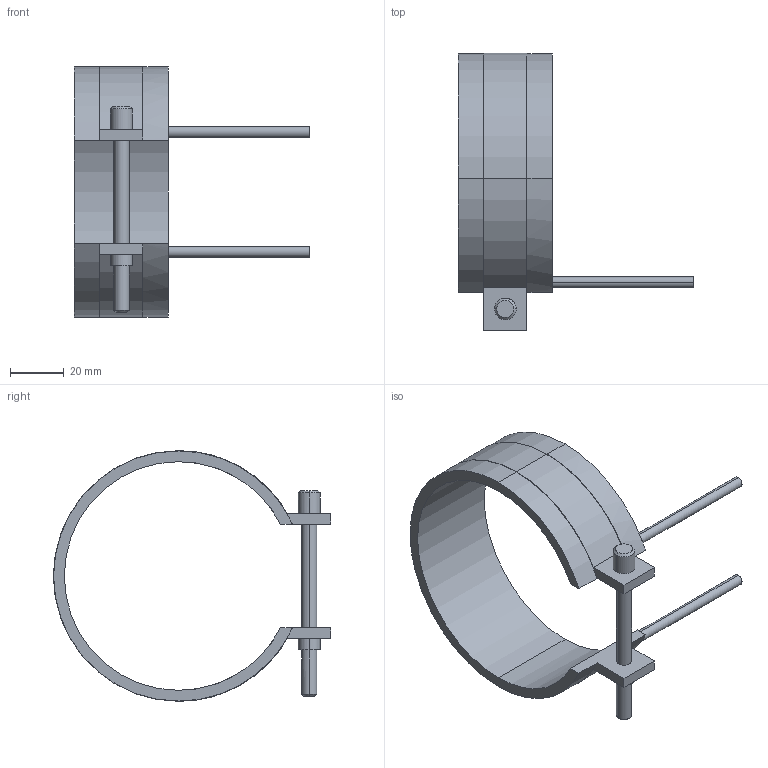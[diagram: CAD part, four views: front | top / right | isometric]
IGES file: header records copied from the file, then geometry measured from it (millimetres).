
Start section: START RECORD GO HERE.
Global section: file name: 14085035.igs; native system: DASSAULT SYSTEMES CATIA V5 R20 - www.3ds.com; preprocessor: CATIA Version 5 Release 20 ; author: Utente; organization: NB04-ASUS; date: 20210406.181729; units: millimetre
Bounding box: 87.5 x 103.1 x 93.2 mm (x, y, z)
Surface area: 22830.4 mm2 (no closed solid volume)
Topology: 0 solids, 0 shells, 45 faces, 232 edges, 232 vertices
Faces by surface type: revolution 28, plane 17
